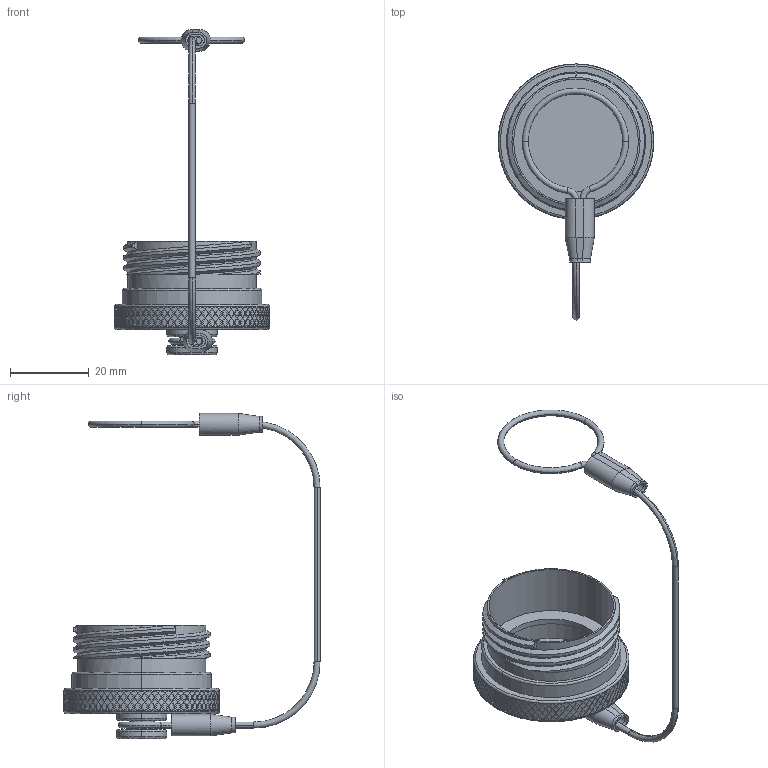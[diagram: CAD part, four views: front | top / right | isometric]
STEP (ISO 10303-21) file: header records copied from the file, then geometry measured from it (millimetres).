
FILE_DESCRIPTION (( 'STEP AP214' ), '1' );
FILE_NAME ('Q38DC-PGX-21-R2.STEP', '2026-04-22T18:24:32', ( '' ), ( '' ), 'SwSTEP 2.0', 'SolidWorks 2024', '' );
FILE_SCHEMA (( 'AUTOMOTIVE_DESIGN' ));
Length unit declared in the file: inch
Products named in the file (7): HEAT SHRINK_HS-250X625; Q38-XX29-P_21P; Lanyard Assembly Q38_PLUG; Q38DC-PGX-21-R2; Q38-XX28-X_Q38-2128; SW-003; LN-06-07-XX-Q38eb_Plug
Assembly tree (8 placements, depth 3):
  Q38DC-PGX-21-R2
    Q38-XX28-X_Q38-2128
    Lanyard Assembly Q38_PLUG
      LN-06-07-XX-Q38eb_Plug
      SW-003  x2
      HEAT SHRINK_HS-250X625  x2
    Q38-XX29-P_21P
Bounding box: 39.34 x 64.88 x 82.38 mm (x, y, z)
Volume: 10415.9 mm3; surface area: 11648.7 mm2
Topology: 7 solids, 7 shells, 1926 faces, 4625 edges, 3061 vertices
Faces by surface type: plane 1452, cylinder 423, torus 34, bspline 17
Entity records: 56136 total; most frequent: CARTESIAN_POINT 18917, ORIENTED_EDGE 9102, DIRECTION 6201, EDGE_CURVE 4551, VERTEX_POINT 3017, AXIS2_PLACEMENT_3D 2344, EDGE_LOOP 2246, ADVANCED_FACE 1892
